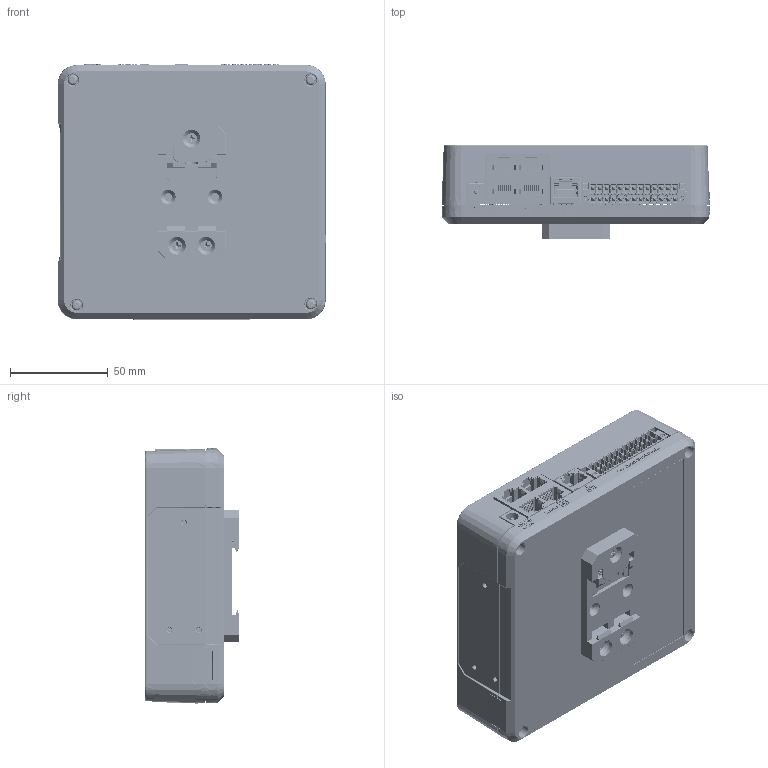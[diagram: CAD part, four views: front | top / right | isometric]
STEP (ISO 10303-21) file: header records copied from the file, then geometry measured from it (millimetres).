
FILE_DESCRIPTION (( 'STEP AP214' ), '1' );
FILE_NAME ('865-0335.STEP', '2021-06-18T18:43:31', ( '' ), ( '' ), 'SwSTEP 2.0', 'SolidWorks 2017', '' );
FILE_SCHEMA (( 'AUTOMOTIVE_DESIGN' ));
Length unit declared in the file: millimetre
Products named in the file (1): 865-0335
Bounding box: 137.74 x 48.5 x 130.83 mm (x, y, z)
Volume: 169521.2 mm3; surface area: 166776.7 mm2
Topology: 57 solids, 57 shells, 9804 faces, 26043 edges, 16468 vertices
Faces by surface type: plane 4624, cylinder 2735, bspline 1833, cone 592, torus 16, sphere 4
Entity records: 505561 total; most frequent: CARTESIAN_POINT 207687, ORIENTED_EDGE 51688, DIRECTION 38354, EDGE_CURVE 25844, VERTEX_POINT 16468, LINE 15040, VECTOR 15040, AXIS2_PLACEMENT_3D 11657
